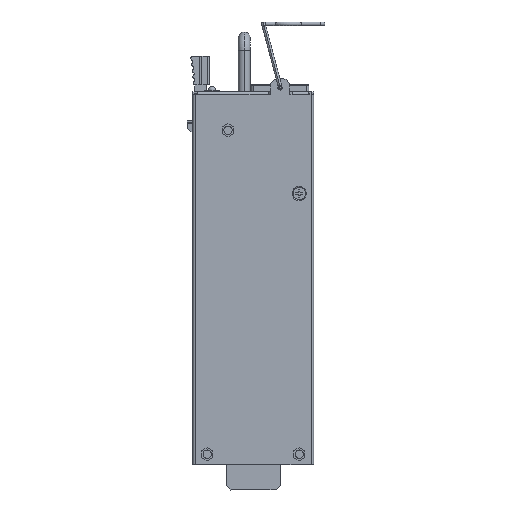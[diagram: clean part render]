
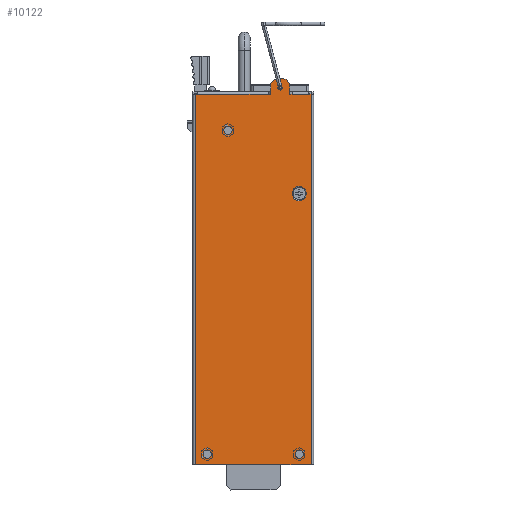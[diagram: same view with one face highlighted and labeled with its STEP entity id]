
A CAD part, front view. The second image highlights one B-rep face of the part: STEP entity #10122.
In plain terms, the highlighted planar face has unit normal (0, -1, 0).
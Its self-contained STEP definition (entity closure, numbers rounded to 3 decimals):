
#163=CARTESIAN_POINT('',(11.25,0.,79.7));
#164=DIRECTION('',(0.,-1.,0.));
#165=DIRECTION('',(-1.,0.,0.));
#166=AXIS2_PLACEMENT_3D('',#163,#164,#165);
#168=CARTESIAN_POINT('',(11.25,0.,79.7));
#169=DIRECTION('',(0.,-1.,0.));
#170=DIRECTION('',(1.,0.,0.));
#171=AXIS2_PLACEMENT_3D('',#168,#169,#170);
#173=CARTESIAN_POINT('',(-10.56,0.,61.98));
#174=DIRECTION('',(0.,-1.,0.));
#175=DIRECTION('',(0.,0.,-1.));
#176=AXIS2_PLACEMENT_3D('',#173,#174,#175);
#178=CARTESIAN_POINT('',(-10.56,0.,61.98));
#179=DIRECTION('',(0.,-1.,0.));
#180=DIRECTION('',(0.,0.,1.));
#181=AXIS2_PLACEMENT_3D('',#178,#179,#180);
#183=CARTESIAN_POINT('',(19.26,0.,-73.51));
#184=DIRECTION('',(0.,-1.,0.));
#185=DIRECTION('',(0.,0.,-1.));
#186=AXIS2_PLACEMENT_3D('',#183,#184,#185);
#188=CARTESIAN_POINT('',(19.26,0.,-73.51));
#189=DIRECTION('',(0.,-1.,0.));
#190=DIRECTION('',(0.,0.,1.));
#191=AXIS2_PLACEMENT_3D('',#188,#189,#190);
#193=CARTESIAN_POINT('',(-19.24,0.,-73.51));
#194=DIRECTION('',(0.,-1.,0.));
#195=DIRECTION('',(0.,0.,-1.));
#196=AXIS2_PLACEMENT_3D('',#193,#194,#195);
#198=CARTESIAN_POINT('',(-19.24,0.,-73.51));
#199=DIRECTION('',(0.,-1.,0.));
#200=DIRECTION('',(0.,0.,1.));
#201=AXIS2_PLACEMENT_3D('',#198,#199,#200);
#203=DIRECTION('',(1.,0.,0.));
#204=VECTOR('',#203,1.);
#205=CARTESIAN_POINT('',(6.25,0.,77.));
#206=LINE('',#205,#204);
#207=DIRECTION('',(0.,0.,-1.));
#208=VECTOR('',#207,3.5);
#209=CARTESIAN_POINT('',(7.25,0.,80.5));
#210=LINE('',#209,#208);
#211=CARTESIAN_POINT('',(10.25,0.,80.5));
#212=DIRECTION('',(0.,-1.,0.));
#213=DIRECTION('',(0.,0.,1.));
#214=AXIS2_PLACEMENT_3D('',#211,#212,#213);
#216=DIRECTION('',(-1.,0.,0.));
#217=VECTOR('',#216,2.);
#218=CARTESIAN_POINT('',(12.25,0.,83.5));
#219=LINE('',#218,#217);
#220=CARTESIAN_POINT('',(12.25,0.,80.5));
#221=DIRECTION('',(0.,-1.,0.));
#222=DIRECTION('',(1.,0.,0.));
#223=AXIS2_PLACEMENT_3D('',#220,#221,#222);
#225=DIRECTION('',(0.,0.,1.));
#226=VECTOR('',#225,3.5);
#227=CARTESIAN_POINT('',(15.25,0.,77.));
#228=LINE('',#227,#226);
#229=DIRECTION('',(1.,0.,0.));
#230=VECTOR('',#229,1.);
#231=CARTESIAN_POINT('',(15.25,0.,77.));
#232=LINE('',#231,#230);
#233=DIRECTION('',(1.,0.,0.));
#234=VECTOR('',#233,1.);
#235=CARTESIAN_POINT('',(23.25,0.,77.));
#236=LINE('',#235,#234);
#237=DIRECTION('',(-1.,0.,0.));
#238=VECTOR('',#237,48.5);
#239=CARTESIAN_POINT('',(24.25,0.,-78.));
#240=LINE('',#239,#238);
#241=DIRECTION('',(1.,0.,0.));
#242=VECTOR('',#241,1.);
#243=CARTESIAN_POINT('',(-24.25,0.,77.));
#244=LINE('',#243,#242);
#245=CARTESIAN_POINT('',(19.26,0.,35.5));
#246=DIRECTION('',(0.,1.,0.));
#247=DIRECTION('',(0.,0.,1.));
#248=AXIS2_PLACEMENT_3D('',#245,#246,#247);
#250=CARTESIAN_POINT('',(19.26,0.,35.5));
#251=DIRECTION('',(0.,1.,0.));
#252=DIRECTION('',(0.,0.,-1.));
#253=AXIS2_PLACEMENT_3D('',#250,#251,#252);
#363=DIRECTION('',(0.,0.,-1.));
#364=VECTOR('',#363,155.);
#365=CARTESIAN_POINT('',(24.25,0.,77.));
#366=LINE('',#365,#364);
#2015=DIRECTION('',(0.,0.,1.));
#2016=VECTOR('',#2015,155.);
#2017=CARTESIAN_POINT('',(-24.25,0.,-78.));
#2018=LINE('',#2017,#2016);
#4384=DIRECTION('',(1.,0.,0.));
#4385=VECTOR('',#4384,29.5);
#4386=CARTESIAN_POINT('',(-23.25,0.,77.));
#4387=LINE('',#4386,#4385);
#5092=DIRECTION('',(1.,0.,0.));
#5093=VECTOR('',#5092,7.);
#5094=CARTESIAN_POINT('',(16.25,0.,77.));
#5095=LINE('',#5094,#5093);
#7753=CARTESIAN_POINT('',(24.25,0.,-78.));
#7755=VERTEX_POINT('',#7753);
#7761=CARTESIAN_POINT('',(-24.25,0.,-78.));
#7762=VERTEX_POINT('',#7761);
#7773=CARTESIAN_POINT('',(24.25,0.,77.));
#7774=VERTEX_POINT('',#7773);
#7776=CARTESIAN_POINT('',(-24.25,0.,77.));
#7778=VERTEX_POINT('',#7776);
#7834=CARTESIAN_POINT('',(16.25,0.,77.));
#7836=VERTEX_POINT('',#7834);
#7838=CARTESIAN_POINT('',(6.25,0.,77.));
#7840=VERTEX_POINT('',#7838);
#7861=CARTESIAN_POINT('',(15.25,0.,77.));
#7863=VERTEX_POINT('',#7861);
#7865=CARTESIAN_POINT('',(7.25,0.,77.));
#7867=VERTEX_POINT('',#7865);
#7869=CARTESIAN_POINT('',(10.25,0.,83.5));
#7870=CARTESIAN_POINT('',(7.25,0.,80.5));
#7871=VERTEX_POINT('',#7869);
#7872=VERTEX_POINT('',#7870);
#7877=CARTESIAN_POINT('',(15.25,0.,80.5));
#7878=CARTESIAN_POINT('',(12.25,0.,83.5));
#7879=VERTEX_POINT('',#7877);
#7880=VERTEX_POINT('',#7878);
#7885=CARTESIAN_POINT('',(10.35,0.,79.7));
#7886=CARTESIAN_POINT('',(12.15,0.,79.7));
#7887=VERTEX_POINT('',#7885);
#7888=VERTEX_POINT('',#7886);
#9637=CARTESIAN_POINT('',(-10.56,0.,63.73));
#9638=CARTESIAN_POINT('',(-10.56,0.,60.23));
#9639=VERTEX_POINT('',#9637);
#9640=VERTEX_POINT('',#9638);
#9641=CARTESIAN_POINT('',(19.26,0.,-71.76));
#9642=CARTESIAN_POINT('',(19.26,0.,-75.26));
#9643=VERTEX_POINT('',#9641);
#9644=VERTEX_POINT('',#9642);
#9645=CARTESIAN_POINT('',(-19.24,0.,-71.76));
#9646=CARTESIAN_POINT('',(-19.24,0.,-75.26));
#9647=VERTEX_POINT('',#9645);
#9648=VERTEX_POINT('',#9646);
#9771=CARTESIAN_POINT('',(-23.25,0.,77.));
#9772=VERTEX_POINT('',#9771);
#9773=CARTESIAN_POINT('',(23.25,0.,77.));
#9774=VERTEX_POINT('',#9773);
#9859=CARTESIAN_POINT('',(19.26,0.,38.5));
#9860=CARTESIAN_POINT('',(19.26,0.,32.5));
#9861=VERTEX_POINT('',#9859);
#9862=VERTEX_POINT('',#9860);
#10057=CARTESIAN_POINT('',(0.,0.,0.));
#10058=DIRECTION('',(0.,1.,0.));
#10059=DIRECTION('',(1.,0.,0.));
#10060=AXIS2_PLACEMENT_3D('',#10057,#10058,#10059);
#10061=PLANE('',#10060);
#10063=ORIENTED_EDGE('',*,*,#10062,.T.);
#10065=ORIENTED_EDGE('',*,*,#10064,.T.);
#10067=ORIENTED_EDGE('',*,*,#10066,.F.);
#10069=ORIENTED_EDGE('',*,*,#10068,.F.);
#10071=ORIENTED_EDGE('',*,*,#10070,.F.);
#10073=ORIENTED_EDGE('',*,*,#10072,.F.);
#10075=ORIENTED_EDGE('',*,*,#10074,.F.);
#10077=ORIENTED_EDGE('',*,*,#10076,.T.);
#10079=ORIENTED_EDGE('',*,*,#10078,.T.);
#10081=ORIENTED_EDGE('',*,*,#10080,.T.);
#10083=ORIENTED_EDGE('',*,*,#10082,.T.);
#10085=ORIENTED_EDGE('',*,*,#10084,.T.);
#10087=ORIENTED_EDGE('',*,*,#10086,.T.);
#10089=ORIENTED_EDGE('',*,*,#10088,.T.);
#10090=EDGE_LOOP('',(#10063,#10065,#10067,#10069,#10071,#10073,#10075,#10077,
#10079,#10081,#10083,#10085,#10087,#10089));
#10091=FACE_OUTER_BOUND('',#10090,.F.);
#10093=ORIENTED_EDGE('',*,*,#10092,.T.);
#10095=ORIENTED_EDGE('',*,*,#10094,.T.);
#10096=EDGE_LOOP('',(#10093,#10095));
#10097=FACE_BOUND('',#10096,.F.);
#10099=ORIENTED_EDGE('',*,*,#10098,.T.);
#10101=ORIENTED_EDGE('',*,*,#10100,.T.);
#10102=EDGE_LOOP('',(#10099,#10101));
#10103=FACE_BOUND('',#10102,.F.);
#10105=ORIENTED_EDGE('',*,*,#10104,.T.);
#10107=ORIENTED_EDGE('',*,*,#10106,.T.);
#10108=EDGE_LOOP('',(#10105,#10107));
#10109=FACE_BOUND('',#10108,.F.);
#10111=ORIENTED_EDGE('',*,*,#10110,.T.);
#10113=ORIENTED_EDGE('',*,*,#10112,.T.);
#10114=EDGE_LOOP('',(#10111,#10113));
#10115=FACE_BOUND('',#10114,.F.);
#10117=ORIENTED_EDGE('',*,*,#10116,.F.);
#10119=ORIENTED_EDGE('',*,*,#10118,.F.);
#10120=EDGE_LOOP('',(#10117,#10119));
#10121=FACE_BOUND('',#10120,.F.);
#10122=ADVANCED_FACE('',(#10091,#10097,#10103,#10109,#10115,#10121),#10061,.F.);
#167=CIRCLE('',#166,0.9);
#172=CIRCLE('',#171,0.9);
#177=CIRCLE('',#176,1.75);
#182=CIRCLE('',#181,1.75);
#187=CIRCLE('',#186,1.75);
#192=CIRCLE('',#191,1.75);
#197=CIRCLE('',#196,1.75);
#202=CIRCLE('',#201,1.75);
#215=CIRCLE('',#214,3.);
#224=CIRCLE('',#223,3.);
#249=CIRCLE('',#248,3.);
#254=CIRCLE('',#253,3.);
#10062=EDGE_CURVE('',#9772,#7840,#4387,.T.);
#10064=EDGE_CURVE('',#7840,#7867,#206,.T.);
#10066=EDGE_CURVE('',#7872,#7867,#210,.T.);
#10068=EDGE_CURVE('',#7871,#7872,#215,.T.);
#10070=EDGE_CURVE('',#7880,#7871,#219,.T.);
#10072=EDGE_CURVE('',#7879,#7880,#224,.T.);
#10074=EDGE_CURVE('',#7863,#7879,#228,.T.);
#10076=EDGE_CURVE('',#7863,#7836,#232,.T.);
#10078=EDGE_CURVE('',#7836,#9774,#5095,.T.);
#10080=EDGE_CURVE('',#9774,#7774,#236,.T.);
#10082=EDGE_CURVE('',#7774,#7755,#366,.T.);
#10084=EDGE_CURVE('',#7755,#7762,#240,.T.);
#10086=EDGE_CURVE('',#7762,#7778,#2018,.T.);
#10088=EDGE_CURVE('',#7778,#9772,#244,.T.);
#10092=EDGE_CURVE('',#9640,#9639,#177,.T.);
#10094=EDGE_CURVE('',#9639,#9640,#182,.T.);
#10098=EDGE_CURVE('',#9644,#9643,#187,.T.);
#10100=EDGE_CURVE('',#9643,#9644,#192,.T.);
#10104=EDGE_CURVE('',#9648,#9647,#197,.T.);
#10106=EDGE_CURVE('',#9647,#9648,#202,.T.);
#10110=EDGE_CURVE('',#7887,#7888,#167,.T.);
#10112=EDGE_CURVE('',#7888,#7887,#172,.T.);
#10116=EDGE_CURVE('',#9861,#9862,#249,.T.);
#10118=EDGE_CURVE('',#9862,#9861,#254,.T.);
